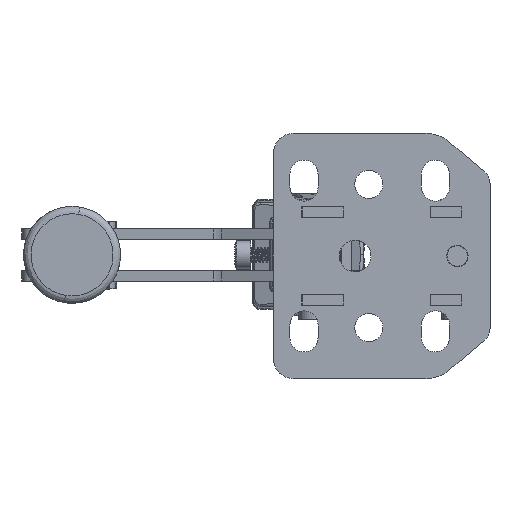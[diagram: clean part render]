
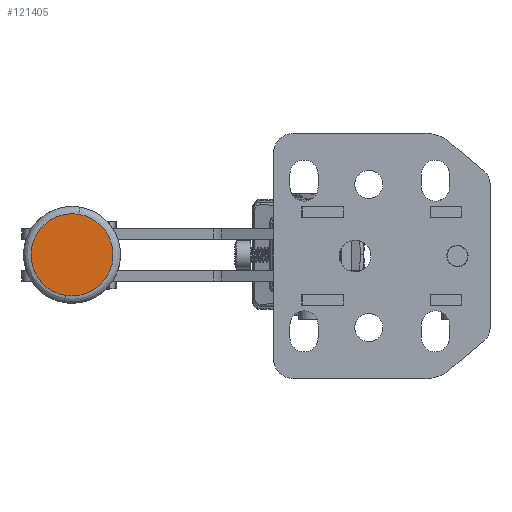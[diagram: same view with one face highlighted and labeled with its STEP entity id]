
A CAD part, front view. The second image highlights one B-rep face of the part: STEP entity #121405.
In plain terms, the highlighted free-form (B-spline) face has degree [1, 1] with [2, 2] control points.
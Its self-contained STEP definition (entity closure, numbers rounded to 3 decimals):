
#121322=CARTESIAN_POINT('',(-1.246,0.05,-116.338));
#121323=VERTEX_POINT('',#121322);
#121324=CARTESIAN_POINT('',(1.312,0.05,-100.488));
#121325=VERTEX_POINT('',#121324);
#121326=CARTESIAN_POINT('',(-1.246,0.05,-116.338));
#121327=CARTESIAN_POINT('',(-17.095,0.05,-113.78));
#121328=CARTESIAN_POINT('',(-14.538,0.05,-97.931));
#121329=CARTESIAN_POINT('',(1.312,0.05,-100.488));
#121330=(BOUNDED_CURVE()B_SPLINE_CURVE(3,(#121326,#121327,#121328,#121329),.UNSPECIFIED.,.F.,.U.)B_SPLINE_CURVE_WITH_KNOTS((4,4),(0.,1.),.UNSPECIFIED.)CURVE()GEOMETRIC_REPRESENTATION_ITEM()RATIONAL_B_SPLINE_CURVE((0.957,0.319,0.319,0.957))REPRESENTATION_ITEM(''));
#121331=EDGE_CURVE('',#121323,#121325,#121330,.T.);
#121361=CARTESIAN_POINT('',(9.236,0.05,-101.767));
#121362=CARTESIAN_POINT('',(-6.613,0.05,-99.209));
#121363=CARTESIAN_POINT('',(6.679,0.05,-117.616));
#121364=CARTESIAN_POINT('',(-9.171,0.05,-115.059));
#121365=B_SPLINE_SURFACE_WITH_KNOTS('',1,1,((#121361,#121362),(#121363,#121364)),.PLANE_SURF.,.F.,.F.,.U.,(2,2),(2,2),(0.006,0.994),(0.006,0.994),.UNSPECIFIED.);
#121366=ORIENTED_EDGE('',*,*,#121331,.T.);
#121367=CARTESIAN_POINT('',(1.312,0.05,-100.488));
#121368=CARTESIAN_POINT('',(2.092,0.05,-100.614));
#121369=CARTESIAN_POINT('',(2.833,0.05,-100.89));
#121370=CARTESIAN_POINT('',(3.574,0.05,-101.166));
#121371=CARTESIAN_POINT('',(4.247,0.05,-101.581));
#121372=CARTESIAN_POINT('',(4.92,0.05,-101.996));
#121373=CARTESIAN_POINT('',(5.499,0.05,-102.534));
#121374=CARTESIAN_POINT('',(6.078,0.05,-103.073));
#121375=CARTESIAN_POINT('',(6.541,0.05,-103.714));
#121376=CARTESIAN_POINT('',(7.004,0.05,-104.354));
#121377=CARTESIAN_POINT('',(7.333,0.05,-105.073));
#121378=CARTESIAN_POINT('',(7.662,0.05,-105.792));
#121379=CARTESIAN_POINT('',(7.844,0.05,-106.562));
#121380=CARTESIAN_POINT('',(8.026,0.05,-107.331));
#121381=CARTESIAN_POINT('',(8.055,0.05,-108.121));
#121382=CARTESIAN_POINT('',(8.084,0.05,-108.911));
#121383=CARTESIAN_POINT('',(7.958,0.05,-109.692));
#121384=CARTESIAN_POINT('',(7.832,0.05,-110.472));
#121385=CARTESIAN_POINT('',(7.556,0.05,-111.213));
#121386=CARTESIAN_POINT('',(7.28,0.05,-111.954));
#121387=CARTESIAN_POINT('',(6.865,0.05,-112.627));
#121388=CARTESIAN_POINT('',(6.45,0.05,-113.3));
#121389=CARTESIAN_POINT('',(5.912,0.05,-113.879));
#121390=CARTESIAN_POINT('',(5.373,0.05,-114.458));
#121391=CARTESIAN_POINT('',(4.732,0.05,-114.921));
#121392=CARTESIAN_POINT('',(4.091,0.05,-115.384));
#121393=CARTESIAN_POINT('',(3.372,0.05,-115.713));
#121394=CARTESIAN_POINT('',(2.654,0.05,-116.041));
#121395=CARTESIAN_POINT('',(1.884,0.05,-116.224));
#121396=CARTESIAN_POINT('',(1.115,0.05,-116.406));
#121397=CARTESIAN_POINT('',(0.325,0.05,-116.435));
#121398=CARTESIAN_POINT('',(-0.465,0.05,-116.464));
#121399=CARTESIAN_POINT('',(-1.246,0.05,-116.338));
#121400=B_SPLINE_CURVE_WITH_KNOTS('',2,(#121367,#121368,#121369,#121370,#121371,#121372,#121373,#121374,#121375,#121376,#121377,#121378,#121379,#121380,#121381,#121382,#121383,#121384,#121385,#121386,#121387,#121388,#121389,#121390,#121391,#121392,#121393,#121394,#121395,#121396,#121397,#121398,#121399),.UNSPECIFIED.,.F.,.U.,(3,2,2,2,2,2,2,2,2,2,2,2,2,2,2,2,3),(0.,0.063,0.125,0.188,0.25,0.313,0.375,0.438,0.5,0.563,0.625,0.688,0.75,0.813,0.875,0.938,1.),.UNSPECIFIED.);
#121401=EDGE_CURVE('',#121325,#121323,#121400,.T.);
#121402=ORIENTED_EDGE('',*,*,#121401,.T.);
#121403=EDGE_LOOP('',(#121366,#121402));
#121404=FACE_OUTER_BOUND('',#121403,.F.);
#121405=ADVANCED_FACE('',(#121404),#121365,.F.);
